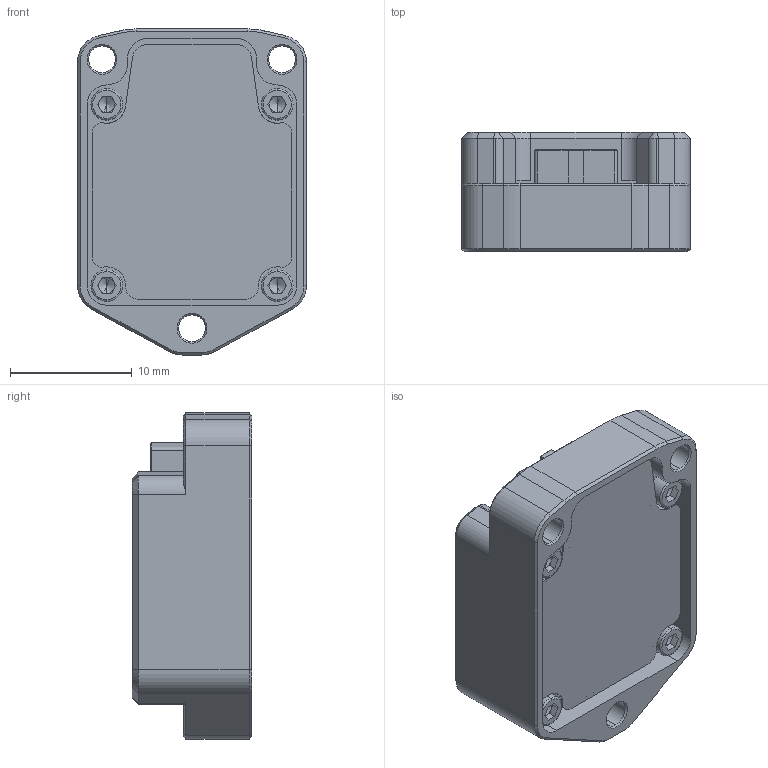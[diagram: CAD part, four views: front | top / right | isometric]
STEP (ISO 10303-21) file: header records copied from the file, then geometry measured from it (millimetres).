
FILE_DESCRIPTION (( 'STEP AP214' ), '1' );
FILE_NAME ('Ellipse Micro.STEP', '2017-07-20T15:03:15', ( '' ), ( '' ), 'SwSTEP 2.0', 'SolidWorks 2016', '' );
FILE_SCHEMA (( 'AUTOMOTIVE_DESIGN' ));
Length unit declared in the file: millimetre
Products named in the file (3): g125-fs11005l0_asm; Ellipse-M; Ellipse Micro
Assembly tree (2 placements, depth 2):
  Ellipse Micro
    g125-fs11005l0_asm
    Ellipse-M
Bounding box: 18.8 x 9.8 x 26.8 mm (x, y, z)
Volume: 3252.9 mm3; surface area: 2562.8 mm2
Topology: 1 solids, 12 shells, 542 faces, 1392 edges, 874 vertices
Faces by surface type: plane 228, cylinder 190, bspline 60, cone 56, torus 8
Entity records: 20666 total; most frequent: CARTESIAN_POINT 4432, DIRECTION 2870, ORIENTED_EDGE 2708, EDGE_CURVE 1384, AXIS2_PLACEMENT_3D 1066, VERTEX_POINT 874, VECTOR 738, LINE 738
